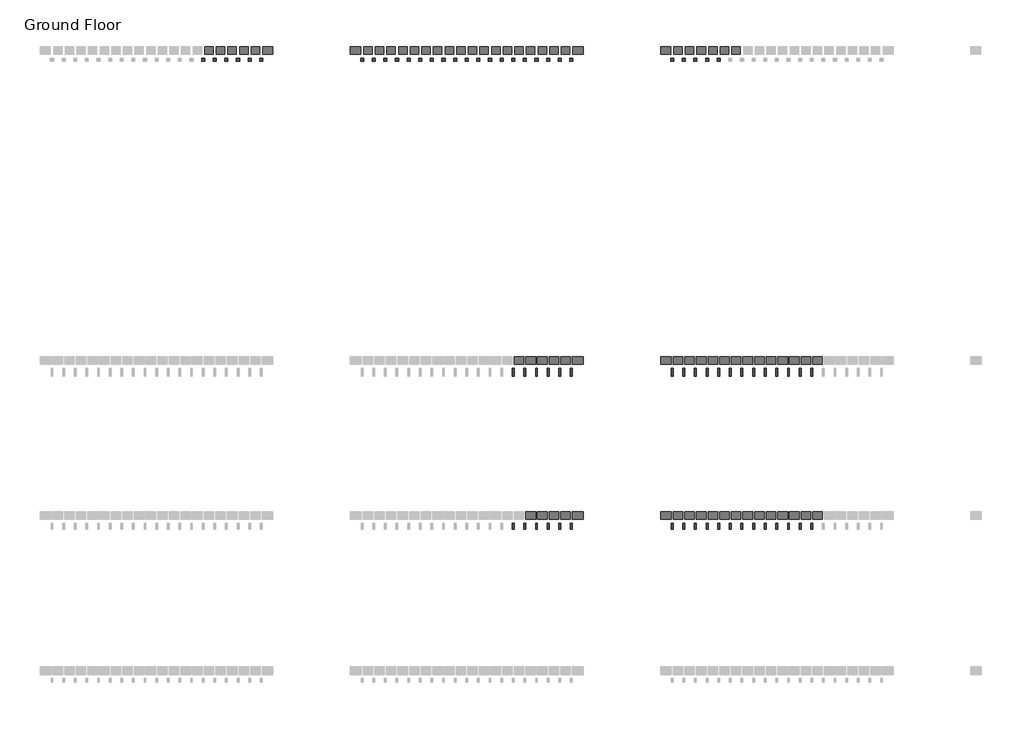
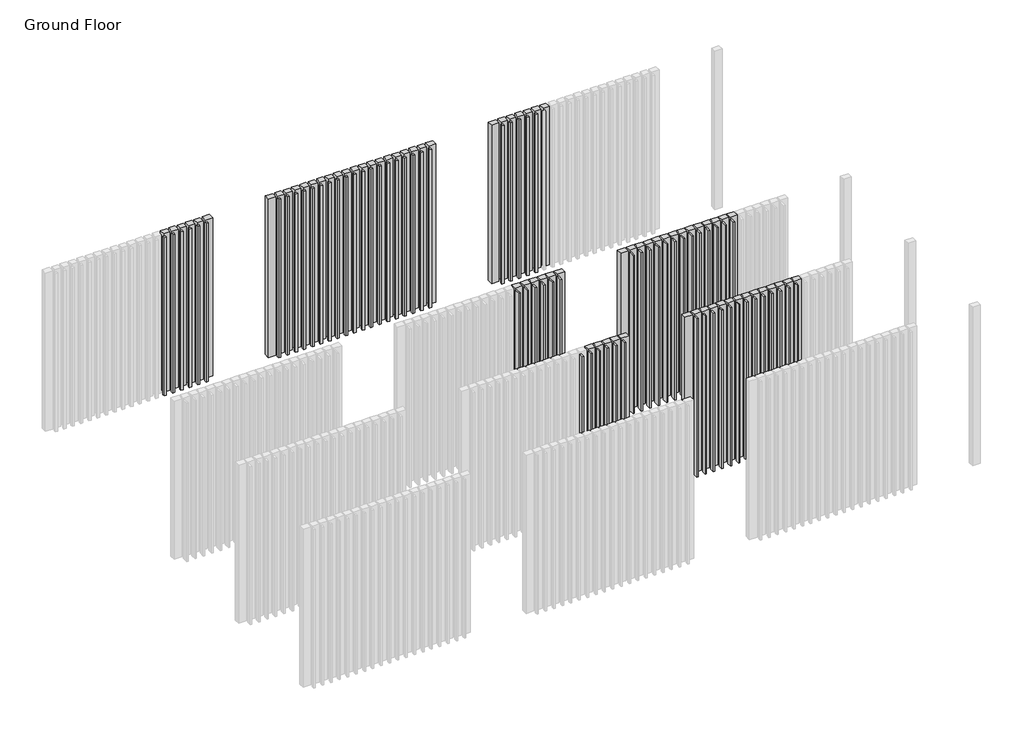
# One storey, part 5 of 350: 72 plates, 68 members.
"""IFC4 building model written with IfcOpenShell, lengths in millimetres."""

from ifc_helpers import new_model, si_unit, origin, place, context, project, spatial, transform, mapped, element, save
from components import rectangular_mullion_b3f0cc74, rectangular_mullion_e8802490, rectangular_mullion_5b385907, empty_system_panel_empty_db8e642d, empty_system_panel_empty_1b6afc67, empty_system_panel_empty_4d48d162, empty_system_panel_empty_b664eb17, empty_system_panel_empty_6da6c4cd, empty_system_panel_empty_b9c1531e

model = new_model("IFC4")

# Units and contexts
model_context = context("Model", 3, world=origin())
ifc_project = project(units=[si_unit("LENGTHUNIT", "METRE", prefix="MILLI")], contexts=[model_context])

# Site, building, storey
site = spatial("IfcSite", under=ifc_project)
building = spatial("IfcBuilding", under=site)
storey = spatial("IfcBuildingStorey", under=building, Name="Ground Floor", Elevation=0.0)

# Members
placement = place(None, origin())
rectangular_mullion_shape = rectangular_mullion_b3f0cc74(model_context)
element("IfcMember", 1, ObjectType="Rectangular Mullion : Batten_Aluminium_Modinex_AluBatten_25x75_EnglishOak", at=placement, inside=storey, context=model_context, shape_type="MappedRepresentation", body=[
    mapped(rectangular_mullion_shape, transform((12016.4361642, 8968.2978302, 0.0), x_axis=(1.0, 0.0, 0.0), y_axis=(0.0, -1.0, 0.0), z_axis=(0.0, 0.0, -1.0))),
])
element("IfcMember", 2, ObjectType="Rectangular Mullion : Batten_Aluminium_Modinex_AluBatten_25x75_EnglishOak", at=placement, inside=storey, context=model_context, shape_type="MappedRepresentation", body=[
    mapped(rectangular_mullion_shape, transform((12166.4361642, 8968.2978302, 0.0), x_axis=(1.0, 0.0, 0.0), y_axis=(0.0, -1.0, 0.0), z_axis=(0.0, 0.0, -1.0))),
])
element("IfcMember", 3, ObjectType="Rectangular Mullion : Batten_Aluminium_Modinex_AluBatten_25x75_EnglishOak", at=placement, inside=storey, context=model_context, shape_type="MappedRepresentation", body=[
    mapped(rectangular_mullion_shape, transform((12316.4361642, 8968.2978302, 0.0), x_axis=(1.0, 0.0, 0.0), y_axis=(0.0, -1.0, 0.0), z_axis=(0.0, 0.0, -1.0))),
])
element("IfcMember", 4, ObjectType="Rectangular Mullion : Batten_Aluminium_Modinex_AluBatten_25x75_EnglishOak", at=placement, inside=storey, context=model_context, shape_type="MappedRepresentation", body=[
    mapped(rectangular_mullion_shape, transform((12466.4361642, 8968.2978302, 0.0), x_axis=(1.0, 0.0, 0.0), y_axis=(0.0, -1.0, 0.0), z_axis=(0.0, 0.0, -1.0))),
])
element("IfcMember", 5, ObjectType="Rectangular Mullion : Batten_Aluminium_Modinex_AluBatten_25x75_EnglishOak", at=placement, inside=storey, context=model_context, shape_type="MappedRepresentation", body=[
    mapped(rectangular_mullion_shape, transform((12616.4361642, 8968.2978302, 0.0), x_axis=(1.0, 0.0, 0.0), y_axis=(0.0, -1.0, 0.0), z_axis=(0.0, 0.0, -1.0))),
])
element("IfcMember", 6, ObjectType="Rectangular Mullion : Batten_Aluminium_Modinex_AluBatten_25x75_EnglishOak", at=placement, inside=storey, context=model_context, shape_type="MappedRepresentation", body=[
    mapped(rectangular_mullion_shape, transform((12766.4361642, 8968.2978302, 0.0), x_axis=(1.0, 0.0, 0.0), y_axis=(0.0, -1.0, 0.0), z_axis=(0.0, 0.0, -1.0))),
])
rectangular_mullion_2_shape = rectangular_mullion_e8802490(model_context)
element("IfcMember", 7, ObjectType="Rectangular Mullion : Batten_Aluminium_Modinex_AluBatten_25x100_SpottedGum", at=placement, inside=storey, context=model_context, shape_type="MappedRepresentation", body=[
    mapped(rectangular_mullion_2_shape, transform((14066.4361642, 10968.2978302, 0.0), x_axis=(1.0, 0.0, 0.0), y_axis=(0.0, -1.0, 0.0), z_axis=(0.0, 0.0, -1.0))),
])
element("IfcMember", 8, ObjectType="Rectangular Mullion : Batten_Aluminium_Modinex_AluBatten_25x100_SpottedGum", at=placement, inside=storey, context=model_context, shape_type="MappedRepresentation", body=[
    mapped(rectangular_mullion_2_shape, transform((14216.4361642, 10968.2978302, 0.0), x_axis=(1.0, 0.0, 0.0), y_axis=(0.0, -1.0, 0.0), z_axis=(0.0, 0.0, -1.0))),
])
element("IfcMember", 9, ObjectType="Rectangular Mullion : Batten_Aluminium_Modinex_AluBatten_25x100_SpottedGum", at=placement, inside=storey, context=model_context, shape_type="MappedRepresentation", body=[
    mapped(rectangular_mullion_2_shape, transform((14366.4361642, 10968.2978302, 0.0), x_axis=(1.0, 0.0, 0.0), y_axis=(0.0, -1.0, 0.0), z_axis=(0.0, 0.0, -1.0))),
])
element("IfcMember", 10, ObjectType="Rectangular Mullion : Batten_Aluminium_Modinex_AluBatten_25x100_SpottedGum", at=placement, inside=storey, context=model_context, shape_type="MappedRepresentation", body=[
    mapped(rectangular_mullion_2_shape, transform((14516.4361642, 10968.2978302, 0.0), x_axis=(1.0, 0.0, 0.0), y_axis=(0.0, -1.0, 0.0), z_axis=(0.0, 0.0, -1.0))),
])
element("IfcMember", 11, ObjectType="Rectangular Mullion : Batten_Aluminium_Modinex_AluBatten_25x100_SpottedGum", at=placement, inside=storey, context=model_context, shape_type="MappedRepresentation", body=[
    mapped(rectangular_mullion_2_shape, transform((14666.4361642, 10968.2978302, 0.0), x_axis=(1.0, 0.0, 0.0), y_axis=(0.0, -1.0, 0.0), z_axis=(0.0, 0.0, -1.0))),
])
element("IfcMember", 12, ObjectType="Rectangular Mullion : Batten_Aluminium_Modinex_AluBatten_25x100_SpottedGum", at=placement, inside=storey, context=model_context, shape_type="MappedRepresentation", body=[
    mapped(rectangular_mullion_2_shape, transform((14816.4361642, 10968.2978302, 0.0), x_axis=(1.0, 0.0, 0.0), y_axis=(0.0, -1.0, 0.0), z_axis=(0.0, 0.0, -1.0))),
])
element("IfcMember", 13, ObjectType="Rectangular Mullion : Batten_Aluminium_Modinex_AluBatten_25x100_SpottedGum", at=placement, inside=storey, context=model_context, shape_type="MappedRepresentation", body=[
    mapped(rectangular_mullion_2_shape, transform((14966.4361642, 10968.2978302, 0.0), x_axis=(1.0, 0.0, 0.0), y_axis=(0.0, -1.0, 0.0), z_axis=(0.0, 0.0, -1.0))),
])
element("IfcMember", 14, ObjectType="Rectangular Mullion : Batten_Aluminium_Modinex_AluBatten_25x100_SpottedGum", at=placement, inside=storey, context=model_context, shape_type="MappedRepresentation", body=[
    mapped(rectangular_mullion_2_shape, transform((15116.4361642, 10968.2978302, 0.0), x_axis=(1.0, 0.0, 0.0), y_axis=(0.0, -1.0, 0.0), z_axis=(0.0, 0.0, -1.0))),
])
element("IfcMember", 15, ObjectType="Rectangular Mullion : Batten_Aluminium_Modinex_AluBatten_25x100_SpottedGum", at=placement, inside=storey, context=model_context, shape_type="MappedRepresentation", body=[
    mapped(rectangular_mullion_2_shape, transform((15266.4361642, 10968.2978302, 0.0), x_axis=(1.0, 0.0, 0.0), y_axis=(0.0, -1.0, 0.0), z_axis=(0.0, 0.0, -1.0))),
])
element("IfcMember", 16, ObjectType="Rectangular Mullion : Batten_Aluminium_Modinex_AluBatten_25x100_SpottedGum", at=placement, inside=storey, context=model_context, shape_type="MappedRepresentation", body=[
    mapped(rectangular_mullion_2_shape, transform((15416.4361642, 10968.2978302, 0.0), x_axis=(1.0, 0.0, 0.0), y_axis=(0.0, -1.0, 0.0), z_axis=(0.0, 0.0, -1.0))),
])
element("IfcMember", 17, ObjectType="Rectangular Mullion : Batten_Aluminium_Modinex_AluBatten_25x100_SpottedGum", at=placement, inside=storey, context=model_context, shape_type="MappedRepresentation", body=[
    mapped(rectangular_mullion_2_shape, transform((15566.4361642, 10968.2978302, 0.0), x_axis=(1.0, 0.0, 0.0), y_axis=(0.0, -1.0, 0.0), z_axis=(0.0, 0.0, -1.0))),
])
element("IfcMember", 18, ObjectType="Rectangular Mullion : Batten_Aluminium_Modinex_AluBatten_25x100_SpottedGum", at=placement, inside=storey, context=model_context, shape_type="MappedRepresentation", body=[
    mapped(rectangular_mullion_2_shape, transform((15716.4361642, 10968.2978302, 0.0), x_axis=(1.0, 0.0, 0.0), y_axis=(0.0, -1.0, 0.0), z_axis=(0.0, 0.0, -1.0))),
])
element("IfcMember", 19, ObjectType="Rectangular Mullion : Batten_Aluminium_Modinex_AluBatten_25x100_SpottedGum", at=placement, inside=storey, context=model_context, shape_type="MappedRepresentation", body=[
    mapped(rectangular_mullion_2_shape, transform((15866.4361642, 10968.2978302, 0.0), x_axis=(1.0, 0.0, 0.0), y_axis=(0.0, -1.0, 0.0), z_axis=(0.0, 0.0, -1.0))),
])
element("IfcMember", 20, ObjectType="Rectangular Mullion : Batten_Aluminium_Modinex_AluBatten_25x75_SpottedGum", at=placement, inside=storey, context=model_context, shape_type="MappedRepresentation", body=[
    mapped(rectangular_mullion_shape, transform((14066.4361642, 8968.2978302, 0.0), x_axis=(1.0, 0.0, 0.0), y_axis=(0.0, -1.0, 0.0), z_axis=(0.0, 0.0, -1.0))),
])
element("IfcMember", 21, ObjectType="Rectangular Mullion : Batten_Aluminium_Modinex_AluBatten_25x75_SpottedGum", at=placement, inside=storey, context=model_context, shape_type="MappedRepresentation", body=[
    mapped(rectangular_mullion_shape, transform((14216.4361642, 8968.2978302, 0.0), x_axis=(1.0, 0.0, 0.0), y_axis=(0.0, -1.0, 0.0), z_axis=(0.0, 0.0, -1.0))),
])
element("IfcMember", 22, ObjectType="Rectangular Mullion : Batten_Aluminium_Modinex_AluBatten_25x75_SpottedGum", at=placement, inside=storey, context=model_context, shape_type="MappedRepresentation", body=[
    mapped(rectangular_mullion_shape, transform((14366.4361642, 8968.2978302, 0.0), x_axis=(1.0, 0.0, 0.0), y_axis=(0.0, -1.0, 0.0), z_axis=(0.0, 0.0, -1.0))),
])
element("IfcMember", 23, ObjectType="Rectangular Mullion : Batten_Aluminium_Modinex_AluBatten_25x75_SpottedGum", at=placement, inside=storey, context=model_context, shape_type="MappedRepresentation", body=[
    mapped(rectangular_mullion_shape, transform((14516.4361642, 8968.2978302, 0.0), x_axis=(1.0, 0.0, 0.0), y_axis=(0.0, -1.0, 0.0), z_axis=(0.0, 0.0, -1.0))),
])
element("IfcMember", 24, ObjectType="Rectangular Mullion : Batten_Aluminium_Modinex_AluBatten_25x75_SpottedGum", at=placement, inside=storey, context=model_context, shape_type="MappedRepresentation", body=[
    mapped(rectangular_mullion_shape, transform((14666.4361642, 8968.2978302, 0.0), x_axis=(1.0, 0.0, 0.0), y_axis=(0.0, -1.0, 0.0), z_axis=(0.0, 0.0, -1.0))),
])
element("IfcMember", 25, ObjectType="Rectangular Mullion : Batten_Aluminium_Modinex_AluBatten_25x75_SpottedGum", at=placement, inside=storey, context=model_context, shape_type="MappedRepresentation", body=[
    mapped(rectangular_mullion_shape, transform((14816.4361642, 8968.2978302, 0.0), x_axis=(1.0, 0.0, 0.0), y_axis=(0.0, -1.0, 0.0), z_axis=(0.0, 0.0, -1.0))),
])
element("IfcMember", 26, ObjectType="Rectangular Mullion : Batten_Aluminium_Modinex_AluBatten_25x75_SpottedGum", at=placement, inside=storey, context=model_context, shape_type="MappedRepresentation", body=[
    mapped(rectangular_mullion_shape, transform((14966.4361642, 8968.2978302, 0.0), x_axis=(1.0, 0.0, 0.0), y_axis=(0.0, -1.0, 0.0), z_axis=(0.0, 0.0, -1.0))),
])
element("IfcMember", 27, ObjectType="Rectangular Mullion : Batten_Aluminium_Modinex_AluBatten_25x75_SpottedGum", at=placement, inside=storey, context=model_context, shape_type="MappedRepresentation", body=[
    mapped(rectangular_mullion_shape, transform((15116.4361642, 8968.2978302, 0.0), x_axis=(1.0, 0.0, 0.0), y_axis=(0.0, -1.0, 0.0), z_axis=(0.0, 0.0, -1.0))),
])
element("IfcMember", 28, ObjectType="Rectangular Mullion : Batten_Aluminium_Modinex_AluBatten_25x75_SpottedGum", at=placement, inside=storey, context=model_context, shape_type="MappedRepresentation", body=[
    mapped(rectangular_mullion_shape, transform((15266.4361642, 8968.2978302, 0.0), x_axis=(1.0, 0.0, 0.0), y_axis=(0.0, -1.0, 0.0), z_axis=(0.0, 0.0, -1.0))),
])
element("IfcMember", 29, ObjectType="Rectangular Mullion : Batten_Aluminium_Modinex_AluBatten_25x75_SpottedGum", at=placement, inside=storey, context=model_context, shape_type="MappedRepresentation", body=[
    mapped(rectangular_mullion_shape, transform((15416.4361642, 8968.2978302, 0.0), x_axis=(1.0, 0.0, 0.0), y_axis=(0.0, -1.0, 0.0), z_axis=(0.0, 0.0, -1.0))),
])
element("IfcMember", 30, ObjectType="Rectangular Mullion : Batten_Aluminium_Modinex_AluBatten_25x75_SpottedGum", at=placement, inside=storey, context=model_context, shape_type="MappedRepresentation", body=[
    mapped(rectangular_mullion_shape, transform((15566.4361642, 8968.2978302, 0.0), x_axis=(1.0, 0.0, 0.0), y_axis=(0.0, -1.0, 0.0), z_axis=(0.0, 0.0, -1.0))),
])
element("IfcMember", 31, ObjectType="Rectangular Mullion : Batten_Aluminium_Modinex_AluBatten_25x75_SpottedGum", at=placement, inside=storey, context=model_context, shape_type="MappedRepresentation", body=[
    mapped(rectangular_mullion_shape, transform((15716.4361642, 8968.2978302, 0.0), x_axis=(1.0, 0.0, 0.0), y_axis=(0.0, -1.0, 0.0), z_axis=(0.0, 0.0, -1.0))),
])
element("IfcMember", 32, ObjectType="Rectangular Mullion : Batten_Aluminium_Modinex_AluBatten_25x75_SpottedGum", at=placement, inside=storey, context=model_context, shape_type="MappedRepresentation", body=[
    mapped(rectangular_mullion_shape, transform((15866.4361642, 8968.2978302, 0.0), x_axis=(1.0, 0.0, 0.0), y_axis=(0.0, -1.0, 0.0), z_axis=(0.0, 0.0, -1.0))),
])
element("IfcMember", 33, ObjectType="Rectangular Mullion : Batten_Aluminium_Modinex_AluBatten_25x100_EnglishOak", at=placement, inside=storey, context=model_context, shape_type="MappedRepresentation", body=[
    mapped(rectangular_mullion_2_shape, transform((12016.4361642, 10968.2978302, 0.0), x_axis=(1.0, 0.0, 0.0), y_axis=(0.0, -1.0, 0.0), z_axis=(0.0, 0.0, -1.0))),
])
element("IfcMember", 34, ObjectType="Rectangular Mullion : Batten_Aluminium_Modinex_AluBatten_25x100_EnglishOak", at=placement, inside=storey, context=model_context, shape_type="MappedRepresentation", body=[
    mapped(rectangular_mullion_2_shape, transform((12166.4361642, 10968.2978302, 0.0), x_axis=(1.0, 0.0, 0.0), y_axis=(0.0, -1.0, 0.0), z_axis=(0.0, 0.0, -1.0))),
])
element("IfcMember", 35, ObjectType="Rectangular Mullion : Batten_Aluminium_Modinex_AluBatten_25x100_EnglishOak", at=placement, inside=storey, context=model_context, shape_type="MappedRepresentation", body=[
    mapped(rectangular_mullion_2_shape, transform((12316.4361642, 10968.2978302, 0.0), x_axis=(1.0, 0.0, 0.0), y_axis=(0.0, -1.0, 0.0), z_axis=(0.0, 0.0, -1.0))),
])
element("IfcMember", 36, ObjectType="Rectangular Mullion : Batten_Aluminium_Modinex_AluBatten_25x100_EnglishOak", at=placement, inside=storey, context=model_context, shape_type="MappedRepresentation", body=[
    mapped(rectangular_mullion_2_shape, transform((12466.4361642, 10968.2978302, 0.0), x_axis=(1.0, 0.0, 0.0), y_axis=(0.0, -1.0, 0.0), z_axis=(0.0, 0.0, -1.0))),
])
element("IfcMember", 37, ObjectType="Rectangular Mullion : Batten_Aluminium_Modinex_AluBatten_25x100_EnglishOak", at=placement, inside=storey, context=model_context, shape_type="MappedRepresentation", body=[
    mapped(rectangular_mullion_2_shape, transform((12616.4361642, 10968.2978302, 0.0), x_axis=(1.0, 0.0, 0.0), y_axis=(0.0, -1.0, 0.0), z_axis=(0.0, 0.0, -1.0))),
])
element("IfcMember", 38, ObjectType="Rectangular Mullion : Batten_Aluminium_Modinex_AluBatten_25x100_EnglishOak", at=placement, inside=storey, context=model_context, shape_type="MappedRepresentation", body=[
    mapped(rectangular_mullion_2_shape, transform((12766.4361642, 10968.2978302, 0.0), x_axis=(1.0, 0.0, 0.0), y_axis=(0.0, -1.0, 0.0), z_axis=(0.0, 0.0, -1.0))),
])
rectangular_mullion_3_shape = rectangular_mullion_5b385907(model_context)
element("IfcMember", 39, ObjectType="Rectangular Mullion : Batten_Aluminium_Modinex_AluBatten_40x40_Cedar", at=placement, inside=storey, context=model_context, shape_type="MappedRepresentation", body=[
    mapped(rectangular_mullion_3_shape, transform((8016.4361642, 14968.2978302, 0.0), x_axis=(1.0, 0.0, 0.0), y_axis=(0.0, -1.0, 0.0), z_axis=(0.0, 0.0, -1.0))),
])
element("IfcMember", 40, ObjectType="Rectangular Mullion : Batten_Aluminium_Modinex_AluBatten_40x40_Cedar", at=placement, inside=storey, context=model_context, shape_type="MappedRepresentation", body=[
    mapped(rectangular_mullion_3_shape, transform((8166.4361642, 14968.2978302, 0.0), x_axis=(1.0, 0.0, 0.0), y_axis=(0.0, -1.0, 0.0), z_axis=(0.0, 0.0, -1.0))),
])
element("IfcMember", 41, ObjectType="Rectangular Mullion : Batten_Aluminium_Modinex_AluBatten_40x40_Cedar", at=placement, inside=storey, context=model_context, shape_type="MappedRepresentation", body=[
    mapped(rectangular_mullion_3_shape, transform((8316.4361642, 14968.2978302, 0.0), x_axis=(1.0, 0.0, 0.0), y_axis=(0.0, -1.0, 0.0), z_axis=(0.0, 0.0, -1.0))),
])
element("IfcMember", 42, ObjectType="Rectangular Mullion : Batten_Aluminium_Modinex_AluBatten_40x40_Cedar", at=placement, inside=storey, context=model_context, shape_type="MappedRepresentation", body=[
    mapped(rectangular_mullion_3_shape, transform((8466.4361642, 14968.2978302, 0.0), x_axis=(1.0, 0.0, 0.0), y_axis=(0.0, -1.0, 0.0), z_axis=(0.0, 0.0, -1.0))),
])
element("IfcMember", 43, ObjectType="Rectangular Mullion : Batten_Aluminium_Modinex_AluBatten_40x40_Cedar", at=placement, inside=storey, context=model_context, shape_type="MappedRepresentation", body=[
    mapped(rectangular_mullion_3_shape, transform((8616.4361642, 14968.2978302, 0.0), x_axis=(1.0, 0.0, 0.0), y_axis=(0.0, -1.0, 0.0), z_axis=(0.0, 0.0, -1.0))),
])
element("IfcMember", 44, ObjectType="Rectangular Mullion : Batten_Aluminium_Modinex_AluBatten_40x40_Cedar", at=placement, inside=storey, context=model_context, shape_type="MappedRepresentation", body=[
    mapped(rectangular_mullion_3_shape, transform((8766.4361642, 14968.2978302, 0.0), x_axis=(1.0, 0.0, 0.0), y_axis=(0.0, -1.0, 0.0), z_axis=(0.0, 0.0, -1.0))),
])
element("IfcMember", 45, ObjectType="Rectangular Mullion : Batten_Aluminium_Modinex_AluBatten_40x40_EnglishOak", at=placement, inside=storey, context=model_context, shape_type="MappedRepresentation", body=[
    mapped(rectangular_mullion_3_shape, transform((10066.4361642, 14968.2978302, 0.0), x_axis=(1.0, 0.0, 0.0), y_axis=(0.0, -1.0, 0.0), z_axis=(0.0, 0.0, -1.0))),
])
element("IfcMember", 46, ObjectType="Rectangular Mullion : Batten_Aluminium_Modinex_AluBatten_40x40_EnglishOak", at=placement, inside=storey, context=model_context, shape_type="MappedRepresentation", body=[
    mapped(rectangular_mullion_3_shape, transform((10216.4361642, 14968.2978302, 0.0), x_axis=(1.0, 0.0, 0.0), y_axis=(0.0, -1.0, 0.0), z_axis=(0.0, 0.0, -1.0))),
])
element("IfcMember", 47, ObjectType="Rectangular Mullion : Batten_Aluminium_Modinex_AluBatten_40x40_EnglishOak", at=placement, inside=storey, context=model_context, shape_type="MappedRepresentation", body=[
    mapped(rectangular_mullion_3_shape, transform((10366.4361642, 14968.2978302, 0.0), x_axis=(1.0, 0.0, 0.0), y_axis=(0.0, -1.0, 0.0), z_axis=(0.0, 0.0, -1.0))),
])
element("IfcMember", 48, ObjectType="Rectangular Mullion : Batten_Aluminium_Modinex_AluBatten_40x40_EnglishOak", at=placement, inside=storey, context=model_context, shape_type="MappedRepresentation", body=[
    mapped(rectangular_mullion_3_shape, transform((10516.4361642, 14968.2978302, 0.0), x_axis=(1.0, 0.0, 0.0), y_axis=(0.0, -1.0, 0.0), z_axis=(0.0, 0.0, -1.0))),
])
element("IfcMember", 49, ObjectType="Rectangular Mullion : Batten_Aluminium_Modinex_AluBatten_40x40_EnglishOak", at=placement, inside=storey, context=model_context, shape_type="MappedRepresentation", body=[
    mapped(rectangular_mullion_3_shape, transform((10666.4361642, 14968.2978302, 0.0), x_axis=(1.0, 0.0, 0.0), y_axis=(0.0, -1.0, 0.0), z_axis=(0.0, 0.0, -1.0))),
])
element("IfcMember", 50, ObjectType="Rectangular Mullion : Batten_Aluminium_Modinex_AluBatten_40x40_EnglishOak", at=placement, inside=storey, context=model_context, shape_type="MappedRepresentation", body=[
    mapped(rectangular_mullion_3_shape, transform((10816.4361642, 14968.2978302, 0.0), x_axis=(1.0, 0.0, 0.0), y_axis=(0.0, -1.0, 0.0), z_axis=(0.0, 0.0, -1.0))),
])
element("IfcMember", 51, ObjectType="Rectangular Mullion : Batten_Aluminium_Modinex_AluBatten_40x40_EnglishOak", at=placement, inside=storey, context=model_context, shape_type="MappedRepresentation", body=[
    mapped(rectangular_mullion_3_shape, transform((10966.4361642, 14968.2978302, 0.0), x_axis=(1.0, 0.0, 0.0), y_axis=(0.0, -1.0, 0.0), z_axis=(0.0, 0.0, -1.0))),
])
element("IfcMember", 52, ObjectType="Rectangular Mullion : Batten_Aluminium_Modinex_AluBatten_40x40_EnglishOak", at=placement, inside=storey, context=model_context, shape_type="MappedRepresentation", body=[
    mapped(rectangular_mullion_3_shape, transform((11116.4361642, 14968.2978302, 0.0), x_axis=(1.0, 0.0, 0.0), y_axis=(0.0, -1.0, 0.0), z_axis=(0.0, 0.0, -1.0))),
])
element("IfcMember", 53, ObjectType="Rectangular Mullion : Batten_Aluminium_Modinex_AluBatten_40x40_EnglishOak", at=placement, inside=storey, context=model_context, shape_type="MappedRepresentation", body=[
    mapped(rectangular_mullion_3_shape, transform((11266.4361642, 14968.2978302, 0.0), x_axis=(1.0, 0.0, 0.0), y_axis=(0.0, -1.0, 0.0), z_axis=(0.0, 0.0, -1.0))),
])
element("IfcMember", 54, ObjectType="Rectangular Mullion : Batten_Aluminium_Modinex_AluBatten_40x40_EnglishOak", at=placement, inside=storey, context=model_context, shape_type="MappedRepresentation", body=[
    mapped(rectangular_mullion_3_shape, transform((11416.4361642, 14968.2978302, 0.0), x_axis=(1.0, 0.0, 0.0), y_axis=(0.0, -1.0, 0.0), z_axis=(0.0, 0.0, -1.0))),
])
element("IfcMember", 55, ObjectType="Rectangular Mullion : Batten_Aluminium_Modinex_AluBatten_40x40_EnglishOak", at=placement, inside=storey, context=model_context, shape_type="MappedRepresentation", body=[
    mapped(rectangular_mullion_3_shape, transform((11566.4361642, 14968.2978302, 0.0), x_axis=(1.0, 0.0, 0.0), y_axis=(0.0, -1.0, 0.0), z_axis=(0.0, 0.0, -1.0))),
])
element("IfcMember", 56, ObjectType="Rectangular Mullion : Batten_Aluminium_Modinex_AluBatten_40x40_EnglishOak", at=placement, inside=storey, context=model_context, shape_type="MappedRepresentation", body=[
    mapped(rectangular_mullion_3_shape, transform((11716.4361642, 14968.2978302, 0.0), x_axis=(1.0, 0.0, 0.0), y_axis=(0.0, -1.0, 0.0), z_axis=(0.0, 0.0, -1.0))),
])
element("IfcMember", 57, ObjectType="Rectangular Mullion : Batten_Aluminium_Modinex_AluBatten_40x40_EnglishOak", at=placement, inside=storey, context=model_context, shape_type="MappedRepresentation", body=[
    mapped(rectangular_mullion_3_shape, transform((11866.4361642, 14968.2978302, 0.0), x_axis=(1.0, 0.0, 0.0), y_axis=(0.0, -1.0, 0.0), z_axis=(0.0, 0.0, -1.0))),
])
element("IfcMember", 58, ObjectType="Rectangular Mullion : Batten_Aluminium_Modinex_AluBatten_40x40_EnglishOak", at=placement, inside=storey, context=model_context, shape_type="MappedRepresentation", body=[
    mapped(rectangular_mullion_3_shape, transform((12016.4361642, 14968.2978302, 0.0), x_axis=(1.0, 0.0, 0.0), y_axis=(0.0, -1.0, 0.0), z_axis=(0.0, 0.0, -1.0))),
])
element("IfcMember", 59, ObjectType="Rectangular Mullion : Batten_Aluminium_Modinex_AluBatten_40x40_EnglishOak", at=placement, inside=storey, context=model_context, shape_type="MappedRepresentation", body=[
    mapped(rectangular_mullion_3_shape, transform((12166.4361642, 14968.2978302, 0.0), x_axis=(1.0, 0.0, 0.0), y_axis=(0.0, -1.0, 0.0), z_axis=(0.0, 0.0, -1.0))),
])
element("IfcMember", 60, ObjectType="Rectangular Mullion : Batten_Aluminium_Modinex_AluBatten_40x40_EnglishOak", at=placement, inside=storey, context=model_context, shape_type="MappedRepresentation", body=[
    mapped(rectangular_mullion_3_shape, transform((12316.4361642, 14968.2978302, 0.0), x_axis=(1.0, 0.0, 0.0), y_axis=(0.0, -1.0, 0.0), z_axis=(0.0, 0.0, -1.0))),
])
element("IfcMember", 61, ObjectType="Rectangular Mullion : Batten_Aluminium_Modinex_AluBatten_40x40_EnglishOak", at=placement, inside=storey, context=model_context, shape_type="MappedRepresentation", body=[
    mapped(rectangular_mullion_3_shape, transform((12466.4361642, 14968.2978302, 0.0), x_axis=(1.0, 0.0, 0.0), y_axis=(0.0, -1.0, 0.0), z_axis=(0.0, 0.0, -1.0))),
])
element("IfcMember", 62, ObjectType="Rectangular Mullion : Batten_Aluminium_Modinex_AluBatten_40x40_EnglishOak", at=placement, inside=storey, context=model_context, shape_type="MappedRepresentation", body=[
    mapped(rectangular_mullion_3_shape, transform((12616.4361642, 14968.2978302, 0.0), x_axis=(1.0, 0.0, 0.0), y_axis=(0.0, -1.0, 0.0), z_axis=(0.0, 0.0, -1.0))),
])
element("IfcMember", 63, ObjectType="Rectangular Mullion : Batten_Aluminium_Modinex_AluBatten_40x40_EnglishOak", at=placement, inside=storey, context=model_context, shape_type="MappedRepresentation", body=[
    mapped(rectangular_mullion_3_shape, transform((12766.4361642, 14968.2978302, 0.0), x_axis=(1.0, 0.0, 0.0), y_axis=(0.0, -1.0, 0.0), z_axis=(0.0, 0.0, -1.0))),
])
element("IfcMember", 64, ObjectType="Rectangular Mullion : Batten_Aluminium_Modinex_AluBatten_40x40_SpottedGum", at=placement, inside=storey, context=model_context, shape_type="MappedRepresentation", body=[
    mapped(rectangular_mullion_3_shape, transform((14066.4361642, 14968.2978302, 0.0), x_axis=(1.0, 0.0, 0.0), y_axis=(0.0, -1.0, 0.0), z_axis=(0.0, 0.0, -1.0))),
])
element("IfcMember", 65, ObjectType="Rectangular Mullion : Batten_Aluminium_Modinex_AluBatten_40x40_SpottedGum", at=placement, inside=storey, context=model_context, shape_type="MappedRepresentation", body=[
    mapped(rectangular_mullion_3_shape, transform((14216.4361642, 14968.2978302, 0.0), x_axis=(1.0, 0.0, 0.0), y_axis=(0.0, -1.0, 0.0), z_axis=(0.0, 0.0, -1.0))),
])
element("IfcMember", 66, ObjectType="Rectangular Mullion : Batten_Aluminium_Modinex_AluBatten_40x40_SpottedGum", at=placement, inside=storey, context=model_context, shape_type="MappedRepresentation", body=[
    mapped(rectangular_mullion_3_shape, transform((14366.4361642, 14968.2978302, 0.0), x_axis=(1.0, 0.0, 0.0), y_axis=(0.0, -1.0, 0.0), z_axis=(0.0, 0.0, -1.0))),
])
element("IfcMember", 67, ObjectType="Rectangular Mullion : Batten_Aluminium_Modinex_AluBatten_40x40_SpottedGum", at=placement, inside=storey, context=model_context, shape_type="MappedRepresentation", body=[
    mapped(rectangular_mullion_3_shape, transform((14516.4361642, 14968.2978302, 0.0), x_axis=(1.0, 0.0, 0.0), y_axis=(0.0, -1.0, 0.0), z_axis=(0.0, 0.0, -1.0))),
])
element("IfcMember", 68, ObjectType="Rectangular Mullion : Batten_Aluminium_Modinex_AluBatten_40x40_SpottedGum", at=placement, inside=storey, context=model_context, shape_type="MappedRepresentation", body=[
    mapped(rectangular_mullion_3_shape, transform((14666.4361642, 14968.2978302, 0.0), x_axis=(1.0, 0.0, 0.0), y_axis=(0.0, -1.0, 0.0), z_axis=(0.0, 0.0, -1.0))),
])

# Plates
empty_system_panel_empty_shape = empty_system_panel_empty_db8e642d(model_context)
element("IfcPlate", 69, ObjectType="Empty System Panel : Empty", at=placement, inside=storey, context=model_context, shape_type="MappedRepresentation", body=[
    mapped(empty_system_panel_empty_shape, transform((13985.1861641, 8968.2978302, 0.0), x_axis=(1.0, 0.0, 0.0), y_axis=(0.0, 1.0, 0.0), z_axis=(0.0, 0.0, 1.0))),
])
element("IfcPlate", 70, ObjectType="Empty System Panel : Empty", at=placement, inside=storey, context=model_context, shape_type="MappedRepresentation", body=[
    mapped(empty_system_panel_empty_shape, transform((13985.1861641, 10968.2978302, 0.0), x_axis=(1.0, 0.0, 0.0), y_axis=(0.0, 1.0, 0.0), z_axis=(0.0, 0.0, 1.0))),
])
empty_system_panel_empty_2_shape = empty_system_panel_empty_1b6afc67(model_context)
element("IfcPlate", 71, ObjectType="Empty System Panel : Empty", at=placement, inside=storey, context=model_context, shape_type="MappedRepresentation", body=[
    mapped(empty_system_panel_empty_2_shape, transform((12241.4361642, 8968.2978302, 0.0), x_axis=(1.0, 0.0, 0.0), y_axis=(0.0, 1.0, 0.0), z_axis=(0.0, 0.0, 1.0))),
])
element("IfcPlate", 72, ObjectType="Empty System Panel : Empty", at=placement, inside=storey, context=model_context, shape_type="MappedRepresentation", body=[
    mapped(empty_system_panel_empty_2_shape, transform((12391.4361642, 8968.2978302, 0.0), x_axis=(1.0, 0.0, 0.0), y_axis=(0.0, 1.0, 0.0), z_axis=(0.0, 0.0, 1.0))),
])
element("IfcPlate", 73, ObjectType="Empty System Panel : Empty", at=placement, inside=storey, context=model_context, shape_type="MappedRepresentation", body=[
    mapped(empty_system_panel_empty_2_shape, transform((12541.4361642, 8968.2978302, 0.0), x_axis=(1.0, 0.0, 0.0), y_axis=(0.0, 1.0, 0.0), z_axis=(0.0, 0.0, 1.0))),
])
element("IfcPlate", 74, ObjectType="Empty System Panel : Empty", at=placement, inside=storey, context=model_context, shape_type="MappedRepresentation", body=[
    mapped(empty_system_panel_empty_2_shape, transform((12691.4361642, 8968.2978302, 0.0), x_axis=(1.0, 0.0, 0.0), y_axis=(0.0, 1.0, 0.0), z_axis=(0.0, 0.0, 1.0))),
])
element("IfcPlate", 75, ObjectType="Empty System Panel : Empty", at=placement, inside=storey, context=model_context, shape_type="MappedRepresentation", body=[
    mapped(empty_system_panel_empty_2_shape, transform((14141.4361642, 8968.2978302, 0.0), x_axis=(1.0, 0.0, 0.0), y_axis=(0.0, 1.0, 0.0), z_axis=(0.0, 0.0, 1.0))),
])
element("IfcPlate", 76, ObjectType="Empty System Panel : Empty", at=placement, inside=storey, context=model_context, shape_type="MappedRepresentation", body=[
    mapped(empty_system_panel_empty_2_shape, transform((14291.4361642, 8968.2978302, 0.0), x_axis=(1.0, 0.0, 0.0), y_axis=(0.0, 1.0, 0.0), z_axis=(0.0, 0.0, 1.0))),
])
element("IfcPlate", 77, ObjectType="Empty System Panel : Empty", at=placement, inside=storey, context=model_context, shape_type="MappedRepresentation", body=[
    mapped(empty_system_panel_empty_2_shape, transform((14441.4361642, 8968.2978302, 0.0), x_axis=(1.0, 0.0, 0.0), y_axis=(0.0, 1.0, 0.0), z_axis=(0.0, 0.0, 1.0))),
])
element("IfcPlate", 78, ObjectType="Empty System Panel : Empty", at=placement, inside=storey, context=model_context, shape_type="MappedRepresentation", body=[
    mapped(empty_system_panel_empty_2_shape, transform((14591.4361642, 8968.2978302, 0.0), x_axis=(1.0, 0.0, 0.0), y_axis=(0.0, 1.0, 0.0), z_axis=(0.0, 0.0, 1.0))),
])
element("IfcPlate", 79, ObjectType="Empty System Panel : Empty", at=placement, inside=storey, context=model_context, shape_type="MappedRepresentation", body=[
    mapped(empty_system_panel_empty_2_shape, transform((14741.4361642, 8968.2978302, 0.0), x_axis=(1.0, 0.0, 0.0), y_axis=(0.0, 1.0, 0.0), z_axis=(0.0, 0.0, 1.0))),
])
element("IfcPlate", 80, ObjectType="Empty System Panel : Empty", at=placement, inside=storey, context=model_context, shape_type="MappedRepresentation", body=[
    mapped(empty_system_panel_empty_2_shape, transform((14891.4361642, 8968.2978302, 0.0), x_axis=(1.0, 0.0, 0.0), y_axis=(0.0, 1.0, 0.0), z_axis=(0.0, 0.0, 1.0))),
])
element("IfcPlate", 81, ObjectType="Empty System Panel : Empty", at=placement, inside=storey, context=model_context, shape_type="MappedRepresentation", body=[
    mapped(empty_system_panel_empty_2_shape, transform((15041.4361642, 8968.2978302, 0.0), x_axis=(1.0, 0.0, 0.0), y_axis=(0.0, 1.0, 0.0), z_axis=(0.0, 0.0, 1.0))),
])
element("IfcPlate", 82, ObjectType="Empty System Panel : Empty", at=placement, inside=storey, context=model_context, shape_type="MappedRepresentation", body=[
    mapped(empty_system_panel_empty_2_shape, transform((15191.4361642, 8968.2978302, 0.0), x_axis=(1.0, 0.0, 0.0), y_axis=(0.0, 1.0, 0.0), z_axis=(0.0, 0.0, 1.0))),
])
element("IfcPlate", 83, ObjectType="Empty System Panel : Empty", at=placement, inside=storey, context=model_context, shape_type="MappedRepresentation", body=[
    mapped(empty_system_panel_empty_2_shape, transform((15341.4361642, 8968.2978302, 0.0), x_axis=(1.0, 0.0, 0.0), y_axis=(0.0, 1.0, 0.0), z_axis=(0.0, 0.0, 1.0))),
])
element("IfcPlate", 84, ObjectType="Empty System Panel : Empty", at=placement, inside=storey, context=model_context, shape_type="MappedRepresentation", body=[
    mapped(empty_system_panel_empty_2_shape, transform((15491.4361642, 8968.2978302, 0.0), x_axis=(1.0, 0.0, 0.0), y_axis=(0.0, 1.0, 0.0), z_axis=(0.0, 0.0, 1.0))),
])
element("IfcPlate", 85, ObjectType="Empty System Panel : Empty", at=placement, inside=storey, context=model_context, shape_type="MappedRepresentation", body=[
    mapped(empty_system_panel_empty_2_shape, transform((15641.4361642, 8968.2978302, 0.0), x_axis=(1.0, 0.0, 0.0), y_axis=(0.0, 1.0, 0.0), z_axis=(0.0, 0.0, 1.0))),
])
element("IfcPlate", 86, ObjectType="Empty System Panel : Empty", at=placement, inside=storey, context=model_context, shape_type="MappedRepresentation", body=[
    mapped(empty_system_panel_empty_2_shape, transform((15791.4361642, 8968.2978302, 0.0), x_axis=(1.0, 0.0, 0.0), y_axis=(0.0, 1.0, 0.0), z_axis=(0.0, 0.0, 1.0))),
])
element("IfcPlate", 87, ObjectType="Empty System Panel : Empty", at=placement, inside=storey, context=model_context, shape_type="MappedRepresentation", body=[
    mapped(empty_system_panel_empty_2_shape, transform((15941.4361642, 8968.2978302, 0.0), x_axis=(1.0, 0.0, 0.0), y_axis=(0.0, 1.0, 0.0), z_axis=(0.0, 0.0, 1.0))),
])
element("IfcPlate", 88, ObjectType="Empty System Panel : Empty", at=placement, inside=storey, context=model_context, shape_type="MappedRepresentation", body=[
    mapped(empty_system_panel_empty_2_shape, transform((12091.4361642, 10968.2978302, 0.0), x_axis=(1.0, 0.0, 0.0), y_axis=(0.0, 1.0, 0.0), z_axis=(0.0, 0.0, 1.0))),
])
element("IfcPlate", 89, ObjectType="Empty System Panel : Empty", at=placement, inside=storey, context=model_context, shape_type="MappedRepresentation", body=[
    mapped(empty_system_panel_empty_2_shape, transform((12241.4361642, 10968.2978302, 0.0), x_axis=(1.0, 0.0, 0.0), y_axis=(0.0, 1.0, 0.0), z_axis=(0.0, 0.0, 1.0))),
])
element("IfcPlate", 90, ObjectType="Empty System Panel : Empty", at=placement, inside=storey, context=model_context, shape_type="MappedRepresentation", body=[
    mapped(empty_system_panel_empty_2_shape, transform((12391.4361642, 10968.2978302, 0.0), x_axis=(1.0, 0.0, 0.0), y_axis=(0.0, 1.0, 0.0), z_axis=(0.0, 0.0, 1.0))),
])
element("IfcPlate", 91, ObjectType="Empty System Panel : Empty", at=placement, inside=storey, context=model_context, shape_type="MappedRepresentation", body=[
    mapped(empty_system_panel_empty_2_shape, transform((12541.4361642, 10968.2978302, 0.0), x_axis=(1.0, 0.0, 0.0), y_axis=(0.0, 1.0, 0.0), z_axis=(0.0, 0.0, 1.0))),
])
element("IfcPlate", 92, ObjectType="Empty System Panel : Empty", at=placement, inside=storey, context=model_context, shape_type="MappedRepresentation", body=[
    mapped(empty_system_panel_empty_2_shape, transform((12691.4361642, 10968.2978302, 0.0), x_axis=(1.0, 0.0, 0.0), y_axis=(0.0, 1.0, 0.0), z_axis=(0.0, 0.0, 1.0))),
])
element("IfcPlate", 93, ObjectType="Empty System Panel : Empty", at=placement, inside=storey, context=model_context, shape_type="MappedRepresentation", body=[
    mapped(empty_system_panel_empty_2_shape, transform((14141.4361642, 10968.2978302, 0.0), x_axis=(1.0, 0.0, 0.0), y_axis=(0.0, 1.0, 0.0), z_axis=(0.0, 0.0, 1.0))),
])
element("IfcPlate", 94, ObjectType="Empty System Panel : Empty", at=placement, inside=storey, context=model_context, shape_type="MappedRepresentation", body=[
    mapped(empty_system_panel_empty_2_shape, transform((14291.4361642, 10968.2978302, 0.0), x_axis=(1.0, 0.0, 0.0), y_axis=(0.0, 1.0, 0.0), z_axis=(0.0, 0.0, 1.0))),
])
element("IfcPlate", 95, ObjectType="Empty System Panel : Empty", at=placement, inside=storey, context=model_context, shape_type="MappedRepresentation", body=[
    mapped(empty_system_panel_empty_2_shape, transform((14441.4361642, 10968.2978302, 0.0), x_axis=(1.0, 0.0, 0.0), y_axis=(0.0, 1.0, 0.0), z_axis=(0.0, 0.0, 1.0))),
])
element("IfcPlate", 96, ObjectType="Empty System Panel : Empty", at=placement, inside=storey, context=model_context, shape_type="MappedRepresentation", body=[
    mapped(empty_system_panel_empty_2_shape, transform((14591.4361642, 10968.2978302, 0.0), x_axis=(1.0, 0.0, 0.0), y_axis=(0.0, 1.0, 0.0), z_axis=(0.0, 0.0, 1.0))),
])
element("IfcPlate", 97, ObjectType="Empty System Panel : Empty", at=placement, inside=storey, context=model_context, shape_type="MappedRepresentation", body=[
    mapped(empty_system_panel_empty_2_shape, transform((14741.4361642, 10968.2978302, 0.0), x_axis=(1.0, 0.0, 0.0), y_axis=(0.0, 1.0, 0.0), z_axis=(0.0, 0.0, 1.0))),
])
element("IfcPlate", 98, ObjectType="Empty System Panel : Empty", at=placement, inside=storey, context=model_context, shape_type="MappedRepresentation", body=[
    mapped(empty_system_panel_empty_2_shape, transform((14891.4361642, 10968.2978302, 0.0), x_axis=(1.0, 0.0, 0.0), y_axis=(0.0, 1.0, 0.0), z_axis=(0.0, 0.0, 1.0))),
])
element("IfcPlate", 99, ObjectType="Empty System Panel : Empty", at=placement, inside=storey, context=model_context, shape_type="MappedRepresentation", body=[
    mapped(empty_system_panel_empty_2_shape, transform((15041.4361642, 10968.2978302, 0.0), x_axis=(1.0, 0.0, 0.0), y_axis=(0.0, 1.0, 0.0), z_axis=(0.0, 0.0, 1.0))),
])
element("IfcPlate", 100, ObjectType="Empty System Panel : Empty", at=placement, inside=storey, context=model_context, shape_type="MappedRepresentation", body=[
    mapped(empty_system_panel_empty_2_shape, transform((15191.4361642, 10968.2978302, 0.0), x_axis=(1.0, 0.0, 0.0), y_axis=(0.0, 1.0, 0.0), z_axis=(0.0, 0.0, 1.0))),
])
element("IfcPlate", 101, ObjectType="Empty System Panel : Empty", at=placement, inside=storey, context=model_context, shape_type="MappedRepresentation", body=[
    mapped(empty_system_panel_empty_2_shape, transform((15341.4361642, 10968.2978302, 0.0), x_axis=(1.0, 0.0, 0.0), y_axis=(0.0, 1.0, 0.0), z_axis=(0.0, 0.0, 1.0))),
])
element("IfcPlate", 102, ObjectType="Empty System Panel : Empty", at=placement, inside=storey, context=model_context, shape_type="MappedRepresentation", body=[
    mapped(empty_system_panel_empty_2_shape, transform((15491.4361642, 10968.2978302, 0.0), x_axis=(1.0, 0.0, 0.0), y_axis=(0.0, 1.0, 0.0), z_axis=(0.0, 0.0, 1.0))),
])
element("IfcPlate", 103, ObjectType="Empty System Panel : Empty", at=placement, inside=storey, context=model_context, shape_type="MappedRepresentation", body=[
    mapped(empty_system_panel_empty_2_shape, transform((15641.4361642, 10968.2978302, 0.0), x_axis=(1.0, 0.0, 0.0), y_axis=(0.0, 1.0, 0.0), z_axis=(0.0, 0.0, 1.0))),
])
element("IfcPlate", 104, ObjectType="Empty System Panel : Empty", at=placement, inside=storey, context=model_context, shape_type="MappedRepresentation", body=[
    mapped(empty_system_panel_empty_2_shape, transform((15791.4361642, 10968.2978302, 0.0), x_axis=(1.0, 0.0, 0.0), y_axis=(0.0, 1.0, 0.0), z_axis=(0.0, 0.0, 1.0))),
])
element("IfcPlate", 105, ObjectType="Empty System Panel : Empty", at=placement, inside=storey, context=model_context, shape_type="MappedRepresentation", body=[
    mapped(empty_system_panel_empty_2_shape, transform((15941.4361642, 10968.2978302, 0.0), x_axis=(1.0, 0.0, 0.0), y_axis=(0.0, 1.0, 0.0), z_axis=(0.0, 0.0, 1.0))),
])
empty_system_panel_empty_3_shape = empty_system_panel_empty_4d48d162(model_context)
element("IfcPlate", 106, ObjectType="Empty System Panel : Empty", at=placement, inside=storey, context=model_context, shape_type="MappedRepresentation", body=[
    mapped(empty_system_panel_empty_3_shape, transform((12847.6861641, 8968.2978302, 0.0), x_axis=(1.0, 0.0, 0.0), y_axis=(0.0, 1.0, 0.0), z_axis=(0.0, 0.0, 1.0))),
])
element("IfcPlate", 107, ObjectType="Empty System Panel : Empty", at=placement, inside=storey, context=model_context, shape_type="MappedRepresentation", body=[
    mapped(empty_system_panel_empty_3_shape, transform((12847.6861641, 10968.2978302, 0.0), x_axis=(1.0, 0.0, 0.0), y_axis=(0.0, 1.0, 0.0), z_axis=(0.0, 0.0, 1.0))),
])
empty_system_panel_empty_4_shape = empty_system_panel_empty_b664eb17(model_context)
element("IfcPlate", 108, ObjectType="Empty System Panel : Empty", at=placement, inside=storey, context=model_context, shape_type="MappedRepresentation", body=[
    mapped(empty_system_panel_empty_4_shape, transform((9981.4361641, 14968.2978302, 0.0), x_axis=(1.0, 0.0, 0.0), y_axis=(0.0, 1.0, 0.0), z_axis=(0.0, 0.0, 1.0))),
])
element("IfcPlate", 109, ObjectType="Empty System Panel : Empty", at=placement, inside=storey, context=model_context, shape_type="MappedRepresentation", body=[
    mapped(empty_system_panel_empty_4_shape, transform((13981.4361641, 14968.2978302, 0.0), x_axis=(1.0, 0.0, 0.0), y_axis=(0.0, 1.0, 0.0), z_axis=(0.0, 0.0, 1.0))),
])
empty_system_panel_empty_5_shape = empty_system_panel_empty_6da6c4cd(model_context)
element("IfcPlate", 110, ObjectType="Empty System Panel : Empty", at=placement, inside=storey, context=model_context, shape_type="MappedRepresentation", body=[
    mapped(empty_system_panel_empty_5_shape, transform((8091.4361642, 14968.2978302, 0.0), x_axis=(1.0, 0.0, 0.0), y_axis=(0.0, 1.0, 0.0), z_axis=(0.0, 0.0, 1.0))),
])
element("IfcPlate", 111, ObjectType="Empty System Panel : Empty", at=placement, inside=storey, context=model_context, shape_type="MappedRepresentation", body=[
    mapped(empty_system_panel_empty_5_shape, transform((8241.4361642, 14968.2978302, 0.0), x_axis=(1.0, 0.0, 0.0), y_axis=(0.0, 1.0, 0.0), z_axis=(0.0, 0.0, 1.0))),
])
element("IfcPlate", 112, ObjectType="Empty System Panel : Empty", at=placement, inside=storey, context=model_context, shape_type="MappedRepresentation", body=[
    mapped(empty_system_panel_empty_5_shape, transform((8391.4361642, 14968.2978302, 0.0), x_axis=(1.0, 0.0, 0.0), y_axis=(0.0, 1.0, 0.0), z_axis=(0.0, 0.0, 1.0))),
])
element("IfcPlate", 113, ObjectType="Empty System Panel : Empty", at=placement, inside=storey, context=model_context, shape_type="MappedRepresentation", body=[
    mapped(empty_system_panel_empty_5_shape, transform((8541.4361642, 14968.2978302, 0.0), x_axis=(1.0, 0.0, 0.0), y_axis=(0.0, 1.0, 0.0), z_axis=(0.0, 0.0, 1.0))),
])
element("IfcPlate", 114, ObjectType="Empty System Panel : Empty", at=placement, inside=storey, context=model_context, shape_type="MappedRepresentation", body=[
    mapped(empty_system_panel_empty_5_shape, transform((8691.4361642, 14968.2978302, 0.0), x_axis=(1.0, 0.0, 0.0), y_axis=(0.0, 1.0, 0.0), z_axis=(0.0, 0.0, 1.0))),
])
element("IfcPlate", 115, ObjectType="Empty System Panel : Empty", at=placement, inside=storey, context=model_context, shape_type="MappedRepresentation", body=[
    mapped(empty_system_panel_empty_5_shape, transform((10141.4361642, 14968.2978302, 0.0), x_axis=(1.0, 0.0, 0.0), y_axis=(0.0, 1.0, 0.0), z_axis=(0.0, 0.0, 1.0))),
])
element("IfcPlate", 116, ObjectType="Empty System Panel : Empty", at=placement, inside=storey, context=model_context, shape_type="MappedRepresentation", body=[
    mapped(empty_system_panel_empty_5_shape, transform((10291.4361642, 14968.2978302, 0.0), x_axis=(1.0, 0.0, 0.0), y_axis=(0.0, 1.0, 0.0), z_axis=(0.0, 0.0, 1.0))),
])
element("IfcPlate", 117, ObjectType="Empty System Panel : Empty", at=placement, inside=storey, context=model_context, shape_type="MappedRepresentation", body=[
    mapped(empty_system_panel_empty_5_shape, transform((10441.4361642, 14968.2978302, 0.0), x_axis=(1.0, 0.0, 0.0), y_axis=(0.0, 1.0, 0.0), z_axis=(0.0, 0.0, 1.0))),
])
element("IfcPlate", 118, ObjectType="Empty System Panel : Empty", at=placement, inside=storey, context=model_context, shape_type="MappedRepresentation", body=[
    mapped(empty_system_panel_empty_5_shape, transform((10591.4361642, 14968.2978302, 0.0), x_axis=(1.0, 0.0, 0.0), y_axis=(0.0, 1.0, 0.0), z_axis=(0.0, 0.0, 1.0))),
])
element("IfcPlate", 119, ObjectType="Empty System Panel : Empty", at=placement, inside=storey, context=model_context, shape_type="MappedRepresentation", body=[
    mapped(empty_system_panel_empty_5_shape, transform((10741.4361642, 14968.2978302, 0.0), x_axis=(1.0, 0.0, 0.0), y_axis=(0.0, 1.0, 0.0), z_axis=(0.0, 0.0, 1.0))),
])
element("IfcPlate", 120, ObjectType="Empty System Panel : Empty", at=placement, inside=storey, context=model_context, shape_type="MappedRepresentation", body=[
    mapped(empty_system_panel_empty_5_shape, transform((10891.4361642, 14968.2978302, 0.0), x_axis=(1.0, 0.0, 0.0), y_axis=(0.0, 1.0, 0.0), z_axis=(0.0, 0.0, 1.0))),
])
element("IfcPlate", 121, ObjectType="Empty System Panel : Empty", at=placement, inside=storey, context=model_context, shape_type="MappedRepresentation", body=[
    mapped(empty_system_panel_empty_5_shape, transform((11041.4361642, 14968.2978302, 0.0), x_axis=(1.0, 0.0, 0.0), y_axis=(0.0, 1.0, 0.0), z_axis=(0.0, 0.0, 1.0))),
])
element("IfcPlate", 122, ObjectType="Empty System Panel : Empty", at=placement, inside=storey, context=model_context, shape_type="MappedRepresentation", body=[
    mapped(empty_system_panel_empty_5_shape, transform((11191.4361642, 14968.2978302, 0.0), x_axis=(1.0, 0.0, 0.0), y_axis=(0.0, 1.0, 0.0), z_axis=(0.0, 0.0, 1.0))),
])
element("IfcPlate", 123, ObjectType="Empty System Panel : Empty", at=placement, inside=storey, context=model_context, shape_type="MappedRepresentation", body=[
    mapped(empty_system_panel_empty_5_shape, transform((11341.4361642, 14968.2978302, 0.0), x_axis=(1.0, 0.0, 0.0), y_axis=(0.0, 1.0, 0.0), z_axis=(0.0, 0.0, 1.0))),
])
element("IfcPlate", 124, ObjectType="Empty System Panel : Empty", at=placement, inside=storey, context=model_context, shape_type="MappedRepresentation", body=[
    mapped(empty_system_panel_empty_5_shape, transform((11491.4361642, 14968.2978302, 0.0), x_axis=(1.0, 0.0, 0.0), y_axis=(0.0, 1.0, 0.0), z_axis=(0.0, 0.0, 1.0))),
])
element("IfcPlate", 125, ObjectType="Empty System Panel : Empty", at=placement, inside=storey, context=model_context, shape_type="MappedRepresentation", body=[
    mapped(empty_system_panel_empty_5_shape, transform((11641.4361642, 14968.2978302, 0.0), x_axis=(1.0, 0.0, 0.0), y_axis=(0.0, 1.0, 0.0), z_axis=(0.0, 0.0, 1.0))),
])
element("IfcPlate", 126, ObjectType="Empty System Panel : Empty", at=placement, inside=storey, context=model_context, shape_type="MappedRepresentation", body=[
    mapped(empty_system_panel_empty_5_shape, transform((11791.4361642, 14968.2978302, 0.0), x_axis=(1.0, 0.0, 0.0), y_axis=(0.0, 1.0, 0.0), z_axis=(0.0, 0.0, 1.0))),
])
element("IfcPlate", 127, ObjectType="Empty System Panel : Empty", at=placement, inside=storey, context=model_context, shape_type="MappedRepresentation", body=[
    mapped(empty_system_panel_empty_5_shape, transform((11941.4361642, 14968.2978302, 0.0), x_axis=(1.0, 0.0, 0.0), y_axis=(0.0, 1.0, 0.0), z_axis=(0.0, 0.0, 1.0))),
])
element("IfcPlate", 128, ObjectType="Empty System Panel : Empty", at=placement, inside=storey, context=model_context, shape_type="MappedRepresentation", body=[
    mapped(empty_system_panel_empty_5_shape, transform((12091.4361642, 14968.2978302, 0.0), x_axis=(1.0, 0.0, 0.0), y_axis=(0.0, 1.0, 0.0), z_axis=(0.0, 0.0, 1.0))),
])
element("IfcPlate", 129, ObjectType="Empty System Panel : Empty", at=placement, inside=storey, context=model_context, shape_type="MappedRepresentation", body=[
    mapped(empty_system_panel_empty_5_shape, transform((12241.4361642, 14968.2978302, 0.0), x_axis=(1.0, 0.0, 0.0), y_axis=(0.0, 1.0, 0.0), z_axis=(0.0, 0.0, 1.0))),
])
element("IfcPlate", 130, ObjectType="Empty System Panel : Empty", at=placement, inside=storey, context=model_context, shape_type="MappedRepresentation", body=[
    mapped(empty_system_panel_empty_5_shape, transform((12391.4361642, 14968.2978302, 0.0), x_axis=(1.0, 0.0, 0.0), y_axis=(0.0, 1.0, 0.0), z_axis=(0.0, 0.0, 1.0))),
])
element("IfcPlate", 131, ObjectType="Empty System Panel : Empty", at=placement, inside=storey, context=model_context, shape_type="MappedRepresentation", body=[
    mapped(empty_system_panel_empty_5_shape, transform((12541.4361642, 14968.2978302, 0.0), x_axis=(1.0, 0.0, 0.0), y_axis=(0.0, 1.0, 0.0), z_axis=(0.0, 0.0, 1.0))),
])
element("IfcPlate", 132, ObjectType="Empty System Panel : Empty", at=placement, inside=storey, context=model_context, shape_type="MappedRepresentation", body=[
    mapped(empty_system_panel_empty_5_shape, transform((12691.4361642, 14968.2978302, 0.0), x_axis=(1.0, 0.0, 0.0), y_axis=(0.0, 1.0, 0.0), z_axis=(0.0, 0.0, 1.0))),
])
element("IfcPlate", 133, ObjectType="Empty System Panel : Empty", at=placement, inside=storey, context=model_context, shape_type="MappedRepresentation", body=[
    mapped(empty_system_panel_empty_5_shape, transform((14141.4361642, 14968.2978302, 0.0), x_axis=(1.0, 0.0, 0.0), y_axis=(0.0, 1.0, 0.0), z_axis=(0.0, 0.0, 1.0))),
])
element("IfcPlate", 134, ObjectType="Empty System Panel : Empty", at=placement, inside=storey, context=model_context, shape_type="MappedRepresentation", body=[
    mapped(empty_system_panel_empty_5_shape, transform((14291.4361642, 14968.2978302, 0.0), x_axis=(1.0, 0.0, 0.0), y_axis=(0.0, 1.0, 0.0), z_axis=(0.0, 0.0, 1.0))),
])
element("IfcPlate", 135, ObjectType="Empty System Panel : Empty", at=placement, inside=storey, context=model_context, shape_type="MappedRepresentation", body=[
    mapped(empty_system_panel_empty_5_shape, transform((14441.4361642, 14968.2978302, 0.0), x_axis=(1.0, 0.0, 0.0), y_axis=(0.0, 1.0, 0.0), z_axis=(0.0, 0.0, 1.0))),
])
element("IfcPlate", 136, ObjectType="Empty System Panel : Empty", at=placement, inside=storey, context=model_context, shape_type="MappedRepresentation", body=[
    mapped(empty_system_panel_empty_5_shape, transform((14591.4361642, 14968.2978302, 0.0), x_axis=(1.0, 0.0, 0.0), y_axis=(0.0, 1.0, 0.0), z_axis=(0.0, 0.0, 1.0))),
])
element("IfcPlate", 137, ObjectType="Empty System Panel : Empty", at=placement, inside=storey, context=model_context, shape_type="MappedRepresentation", body=[
    mapped(empty_system_panel_empty_5_shape, transform((14741.4361642, 14968.2978302, 0.0), x_axis=(1.0, 0.0, 0.0), y_axis=(0.0, 1.0, 0.0), z_axis=(0.0, 0.0, 1.0))),
])
element("IfcPlate", 138, ObjectType="Empty System Panel : Empty", at=placement, inside=storey, context=model_context, shape_type="MappedRepresentation", body=[
    mapped(empty_system_panel_empty_5_shape, transform((14891.4361642, 14968.2978302, 0.0), x_axis=(1.0, 0.0, 0.0), y_axis=(0.0, 1.0, 0.0), z_axis=(0.0, 0.0, 1.0))),
])
empty_system_panel_empty_6_shape = empty_system_panel_empty_b9c1531e(model_context)
element("IfcPlate", 139, ObjectType="Empty System Panel : Empty", at=placement, inside=storey, context=model_context, shape_type="MappedRepresentation", body=[
    mapped(empty_system_panel_empty_6_shape, transform((8851.4361641, 14968.2978302, 0.0), x_axis=(1.0, 0.0, 0.0), y_axis=(0.0, 1.0, 0.0), z_axis=(0.0, 0.0, 1.0))),
])
element("IfcPlate", 140, ObjectType="Empty System Panel : Empty", at=placement, inside=storey, context=model_context, shape_type="MappedRepresentation", body=[
    mapped(empty_system_panel_empty_6_shape, transform((12851.4361641, 14968.2978302, 0.0), x_axis=(1.0, 0.0, 0.0), y_axis=(0.0, 1.0, 0.0), z_axis=(0.0, 0.0, 1.0))),
])

save(model, "model.ifc")
